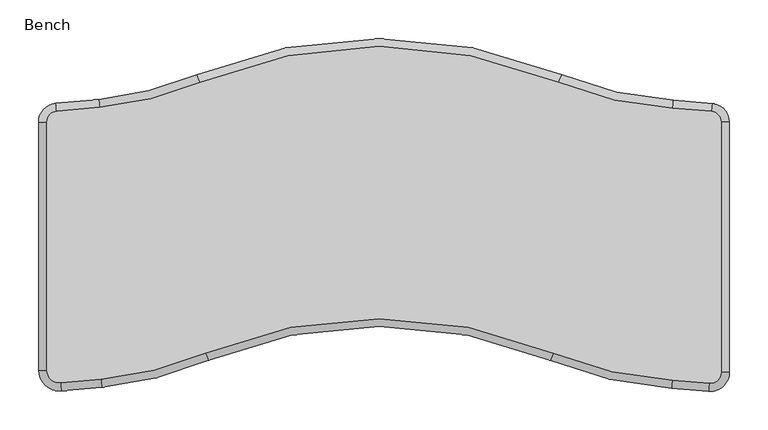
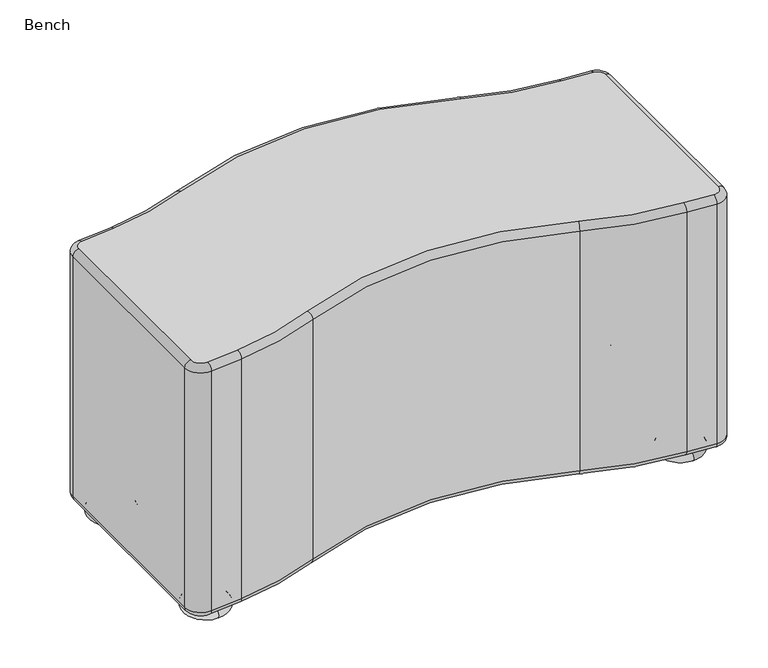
"""IFC4 building model written with IfcOpenShell, lengths in millimetres: furniture geometry, Steelcase Coalesse - Ripple - Seating - Little Ripple Flat Bench : Bench."""

from ifc_helpers import new_model, si_unit, point, frame, origin, place, context, project, spatial, polyline, circle_curve, ellipse_curve, trimmed, source, transform, mapped, element, save
from ifc_brep_helpers import plane_surface, cylinder_surface, revolved_surface, advanced_brep


def bench_6f9ae0b0(model_context):
    return source(origin(), model_context, "Body", "AdvancedBrep", [
        advanced_brep(
        [(932.4187478, -719.4772914, 0.0), (932.4187478, -656.2252244, 0.0), (932.4187478, -687.8512579, 0.0), (932.4187478, -719.4772914, 14.0062856), (932.4187478, -656.2252244, 14.0062856), (932.4187478, -699.2123377, 14.0062856), (932.4187478, -676.4901781, 14.0062856), (932.4187478, -699.2123377, 27.8326936), (932.4187478, -676.4901781, 27.8326936), (932.4187478, -687.8512579, 27.8326936)],
        [
            (0, 1, circle_curve(frame((932.4187478, -687.8512579, 0.0), z_axis=(0.0, 0.0, -1.0), x_axis=(0.0, 1.0, 0.0)), 31.6260335)),
            (1, 2),
            (2, 0),
            (1, 0, circle_curve(frame((932.4187478, -687.8512579, 0.0), z_axis=(0.0, 0.0, -1.0), x_axis=(0.0, 1.0, 0.0)), 31.6260335)),
            (3, 4, circle_curve(frame((932.4187478, -687.8512579, 14.0062856), z_axis=(0.0, 0.0, -1.0), x_axis=(0.0, 1.0, 0.0)), 31.6260335)),
            (4, 1, circle_curve(frame((932.4187478, -656.2252244, 7.0031428), z_axis=(-1.0, 0.0, 0.0), x_axis=(0.0, -1.0, 0.0)), 7.0031428)),
            (0, 3, circle_curve(frame((932.4187478, -719.4772914, 7.0031428), z_axis=(-1.0, 0.0, 0.0), x_axis=(0.0, 1.0, 0.0)), 7.0031428)),
            (4, 3, circle_curve(frame((932.4187478, -687.8512579, 14.0062856), z_axis=(0.0, 0.0, -1.0), x_axis=(0.0, 1.0, 0.0)), 31.6260335)),
            (5, 6, circle_curve(frame((932.4187478, -687.8512579, 14.0062856), z_axis=(0.0, 0.0, -1.0), x_axis=(0.0, 1.0, 0.0)), 11.3610798)),
            (6, 4),
            (3, 5),
            (6, 5, circle_curve(frame((932.4187478, -687.8512579, 14.0062856), z_axis=(0.0, 0.0, -1.0), x_axis=(0.0, 1.0, 0.0)), 11.3610798)),
            (7, 8, circle_curve(frame((932.4187478, -687.8512579, 27.8326936), z_axis=(0.0, 0.0, -1.0), x_axis=(0.0, 1.0, 0.0)), 11.3610798)),
            (8, 6),
            (5, 7),
            (8, 7, circle_curve(frame((932.4187478, -687.8512579, 27.8326936), z_axis=(0.0, 0.0, -1.0), x_axis=(0.0, 1.0, 0.0)), 11.3610798)),
            (9, 8),
            (7, 9),
        ],
        [
            plane_surface(frame((932.4187478, -687.8512579, 0.0), z_axis=(0.0, 0.0, -1.0), x_axis=(0.0, 1.0, 0.0))),
            revolved_surface(trimmed(ellipse_curve(frame((932.4187478, -656.2252244, 7.0031428), z_axis=(1.0, 0.0, 0.0), x_axis=(0.0, -1.0, 0.0)), 7.0031428, 7.0031428), [point((932.4187478, -656.2252244, 0.0))], [point((932.4187478, -656.2252244, 14.0062856))], True, "CARTESIAN"), (932.4187478, -687.8512579, 34.264853), (0.0, 0.0, 1.0)),
            plane_surface(frame((932.4187478, -687.8512579, 14.0062856), z_axis=(0.0, 0.0, 1.0), x_axis=(0.0, 1.0, 0.0))),
            cylinder_surface(frame((932.4187478, -687.8512579, 34.264853), z_axis=(0.0, 0.0, 1.0), x_axis=(0.0, 1.0, 0.0)), 11.3610798),
            plane_surface(frame((932.4187478, -687.8512579, 27.8326936), z_axis=(0.0, 0.0, 1.0), x_axis=(0.0, 1.0, 0.0))),
        ],
        [
            (0, [[1, 2, 3]]),
            (0, [[4, -3, -2]]),
            (1, [[5, 6, -1, 7]]),
            (1, [[8, -7, -4, -6]]),
            (2, [[9, 10, -5, 11]]),
            (2, [[12, -11, -8, -10]]),
            (3, [[13, 14, -9, 15]]),
            (3, [[16, -15, -12, -14]]),
            (4, [[17, -13, 18]]),
            (4, [[-18, -16, -17]]),
        ],
    ),
        advanced_brep(
        [(932.4187478, -990.1676002, 0.0), (932.4187478, -926.9155332, 0.0), (932.4187478, -958.5415667, 0.0), (932.4187478, -990.1676002, 14.0062856), (932.4187478, -926.9155332, 14.0062856), (932.4187478, -969.9026465, 14.0062856), (932.4187478, -947.1804869, 14.0062856), (932.4187478, -969.9026465, 27.8326936), (932.4187478, -947.1804869, 27.8326936), (932.4187478, -958.5415667, 27.8326936)],
        [
            (0, 1, circle_curve(frame((932.4187478, -958.5415667, 0.0), z_axis=(0.0, 0.0, -1.0), x_axis=(0.0, 1.0, 0.0)), 31.6260335)),
            (1, 2),
            (2, 0),
            (1, 0, circle_curve(frame((932.4187478, -958.5415667, 0.0), z_axis=(0.0, 0.0, -1.0), x_axis=(0.0, 1.0, 0.0)), 31.6260335)),
            (3, 4, circle_curve(frame((932.4187478, -958.5415667, 14.0062856), z_axis=(0.0, 0.0, -1.0), x_axis=(0.0, 1.0, 0.0)), 31.6260335)),
            (4, 1, circle_curve(frame((932.4187478, -926.9155332, 7.0031428), z_axis=(-1.0, 0.0, 0.0), x_axis=(0.0, -1.0, 0.0)), 7.0031428)),
            (0, 3, circle_curve(frame((932.4187478, -990.1676002, 7.0031428), z_axis=(-1.0, 0.0, 0.0), x_axis=(0.0, 1.0, 0.0)), 7.0031428)),
            (4, 3, circle_curve(frame((932.4187478, -958.5415667, 14.0062856), z_axis=(0.0, 0.0, -1.0), x_axis=(0.0, 1.0, 0.0)), 31.6260335)),
            (5, 6, circle_curve(frame((932.4187478, -958.5415667, 14.0062856), z_axis=(0.0, 0.0, -1.0), x_axis=(0.0, 1.0, 0.0)), 11.3610798)),
            (6, 4),
            (3, 5),
            (6, 5, circle_curve(frame((932.4187478, -958.5415667, 14.0062856), z_axis=(0.0, 0.0, -1.0), x_axis=(0.0, 1.0, 0.0)), 11.3610798)),
            (7, 8, circle_curve(frame((932.4187478, -958.5415667, 27.8326936), z_axis=(0.0, 0.0, -1.0), x_axis=(0.0, 1.0, 0.0)), 11.3610798)),
            (8, 6),
            (5, 7),
            (8, 7, circle_curve(frame((932.4187478, -958.5415667, 27.8326936), z_axis=(0.0, 0.0, -1.0), x_axis=(0.0, 1.0, 0.0)), 11.3610798)),
            (9, 8),
            (7, 9),
        ],
        [
            plane_surface(frame((932.4187478, -958.5415667, 0.0), z_axis=(0.0, 0.0, -1.0), x_axis=(0.0, 1.0, 0.0))),
            revolved_surface(trimmed(ellipse_curve(frame((932.4187478, -926.9155332, 7.0031428), z_axis=(1.0, 0.0, 0.0), x_axis=(0.0, -1.0, 0.0)), 7.0031428, 7.0031428), [point((932.4187478, -926.9155332, 0.0))], [point((932.4187478, -926.9155332, 14.0062856))], True, "CARTESIAN"), (932.4187478, -958.5415667, 34.264853), (0.0, 0.0, 1.0)),
            plane_surface(frame((932.4187478, -958.5415667, 14.0062856), z_axis=(0.0, 0.0, 1.0), x_axis=(0.0, 1.0, 0.0))),
            cylinder_surface(frame((932.4187478, -958.5415667, 34.264853), z_axis=(0.0, 0.0, 1.0), x_axis=(0.0, 1.0, 0.0)), 11.3610798),
            plane_surface(frame((932.4187478, -958.5415667, 27.8326936), z_axis=(0.0, 0.0, 1.0), x_axis=(0.0, 1.0, 0.0))),
        ],
        [
            (0, [[1, 2, 3]]),
            (0, [[4, -3, -2]]),
            (1, [[5, 6, -1, 7]]),
            (1, [[8, -7, -4, -6]]),
            (2, [[9, 10, -5, 11]]),
            (2, [[12, -11, -8, -10]]),
            (3, [[13, 14, -9, 15]]),
            (3, [[16, -15, -12, -14]]),
            (4, [[17, -13, 18]]),
            (4, [[-18, -16, -17]]),
        ],
    ),
        advanced_brep(
        [(120.4477301, -634.3361638, 27.8849861), (175.971839, -629.3705172, 27.8849861), (176.9508114, -639.3787566, 17.8289808), (121.2602083, -644.3592931, 17.8289808), (120.4477301, -634.3361638, 447.7062021), (175.971839, -629.3705172, 447.7062021), (121.2686106, -644.4629478, 457.8662021), (176.9609355, -639.4822573, 457.8662021), (108.1100099, -658.6185837, 17.8289808), (98.0540046, -658.6185837, 27.8849861), (98.0540046, -658.6185837, 447.7062021), (108.2140046, -658.6185837, 457.8662021), (108.1100099, -979.9351542, 17.8289808), (98.0540046, -979.9351542, 27.8849861), (98.0540046, -979.9351542, 447.7062021), (108.2140046, -979.9351542, 457.8662021), (126.4417979, -996.8225283, 17.8289808), (127.2652499, -1006.844762, 27.8849861), (127.2652499, -1006.844762, 447.7062021), (126.4332821, -996.7188828, 457.8662021), (178.7471627, -992.1158765, 17.8289808), (179.7261351, -1002.1241159, 27.8849861), (179.7261351, -1002.1241159, 447.7062021), (178.7370386, -992.0123757, 457.8662021), (313.8948067, -958.2562611, 17.8289808), (317.750173, -967.5438546, 27.8849861), (317.7501729, -967.5438546, 447.7062021), (313.8549362, -958.160213, 457.8662021), (764.0204577, -958.2562611, 17.8289808), (760.1650914, -967.5438546, 27.8849861), (760.1650914, -967.5438546, 447.7062021), (764.0603281, -958.160213, 457.8662021), (917.6544628, -993.2766822, 17.8289808), (917.1039499, -1003.3176074, 27.8849861), (917.1039499, -1003.3176074, 447.7062021), (917.6601559, -993.1728435, 457.8662021), (965.8258489, -997.2555949, 17.8289808), (964.7213985, -1007.2507653, 27.8849861), (964.7213985, -1007.2507653, 447.7062021), (965.8372706, -997.1522293, 457.8662021), (981.7031439, -983.0360797, 17.8289808), (991.7591492, -983.0360797, 27.8849861), (991.7591492, -983.0360797, 447.7062021), (981.5991492, -983.0360797, 457.8662021), (981.7031439, -658.8859947, 17.8289808), (991.7591492, -658.8859947, 27.8849861), (991.7591492, -658.8859947, 447.7062021), (981.5991492, -658.8859947, 457.8662021), (968.9864852, -644.6684989, 17.8289808), (970.1037068, -634.6747479, 27.8849861), (970.1037068, -634.6747479, 447.7062021), (968.9749314, -644.7718498, 457.8662021), (918.6646184, -640.479586, 17.8289808), (919.2151313, -630.4386609, 27.8849861), (919.2151313, -630.4386609, 447.7062021), (918.6589253, -640.5834248, 457.8662021), (771.0948066, -606.84148, 17.8289808), (774.9501729, -597.5538865, 27.8849861), (774.9501729, -597.5538865, 447.7062021), (771.0549362, -606.9375281, 457.8662021), (306.8204576, -606.84148, 17.8289808), (302.9650914, -597.5538865, 27.8849861), (302.9650914, -597.5538865, 447.7062021), (306.8603281, -606.9375281, 457.8662021)],
        [
            (0, 1, circle_curve(frame((-150.5054877, 2708.2754968, 27.8849861), z_axis=(0.0, 0.0, 1.0), x_axis=(0.09735201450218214, -0.9952500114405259, 0.0)), 3353.575459)),
            (1, 2, circle_curve(frame((176.9508114, -639.3787566, 27.8849861), z_axis=(-0.9952500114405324, -0.09735201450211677, 0.0), x_axis=(0.0, 0.0, 1.0)), 10.0560053)),
            (2, 3, circle_curve(frame((-150.5054877, 2708.2754968, 17.8289808), z_axis=(0.0, 0.0, -1.0), x_axis=(0.09735201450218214, -0.9952500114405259, 0.0)), 3363.6314643)),
            (3, 0, circle_curve(frame((121.2602083, -644.3592931, 27.8849861), z_axis=(0.9967307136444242, 0.08079532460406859, 0.0), x_axis=(0.0, 0.0, 1.0)), 10.0560053)),
            (0, 4),
            (4, 5, circle_curve(frame((-150.5054877, 2708.2754968, 447.7062021), z_axis=(0.0, 0.0, 1.0), x_axis=(0.09735201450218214, -0.9952500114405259, 0.0)), 3353.575459)),
            (5, 1),
            (4, 6, circle_curve(frame((121.2686106, -644.4629478, 447.7062021), z_axis=(0.9967307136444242, 0.0807953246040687, 0.0), x_axis=(0.0, 0.0, 1.0)), 10.16)),
            (6, 7, circle_curve(frame((-150.5054877, 2708.2754968, 457.8662021), z_axis=(0.0, 0.0, 1.0), x_axis=(0.09735201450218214, -0.9952500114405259, 0.0)), 3363.735459)),
            (7, 5, circle_curve(frame((176.9609355, -639.4822573, 447.7062021), z_axis=(-0.9952500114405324, -0.09735201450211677, 0.0), x_axis=(0.0, 0.0, 1.0)), 10.16)),
            (3, 8, circle_curve(frame((122.4160712, -658.6185837, 17.8289808), z_axis=(0.0, 0.0, 1.0), x_axis=(-0.0807953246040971, 0.9967307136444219, 0.0)), 14.3060612)),
            (8, 9, circle_curve(frame((108.1100099, -658.6185837, 27.8849861), z_axis=(0.0, 1.0, 0.0), x_axis=(0.0, 0.0, 1.0)), 10.0560053)),
            (9, 0, circle_curve(frame((122.4160712, -658.6185837, 27.8849861), z_axis=(0.0, 0.0, -1.0), x_axis=(-0.0807953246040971, 0.9967307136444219, 0.0)), 24.3620665)),
            (9, 10),
            (10, 4, circle_curve(frame((122.4160712, -658.6185837, 447.7062021), z_axis=(0.0, 0.0, -1.0), x_axis=(-0.0807953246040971, 0.9967307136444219, 0.0)), 24.3620665)),
            (10, 11, circle_curve(frame((108.2140046, -658.6185837, 447.7062021), z_axis=(0.0, 0.9999999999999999, 0.0), x_axis=(0.0, 0.0, 1.0)), 10.16)),
            (11, 6, circle_curve(frame((122.4160712, -658.6185837, 457.8662021), z_axis=(0.0, 0.0, -1.0), x_axis=(-0.0807953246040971, 0.9967307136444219, 0.0)), 14.2020665)),
            (8, 12),
            (12, 13, circle_curve(frame((108.1100099, -979.9351542, 27.8849861), z_axis=(0.0, 1.0, 0.0), x_axis=(0.0, 0.0, 1.0)), 10.0560053)),
            (13, 9),
            (13, 14),
            (14, 10),
            (14, 15, circle_curve(frame((108.2140046, -979.9351542, 447.7062021), z_axis=(0.0, 1.0, 0.0), x_axis=(0.0, 0.0, 1.0)), 10.16)),
            (15, 11),
            (12, 16, circle_curve(frame((125.0542887, -979.9351542, 17.8289808), z_axis=(0.0, 0.0, 1.0), x_axis=(-1.0, 0.0, 0.0)), 16.9442788)),
            (16, 17, circle_curve(frame((126.4417979, -996.8225283, 27.8849861), z_axis=(-0.9966416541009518, -0.08188658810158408, 0.0), x_axis=(0.0, 0.0, 1.0)), 10.0560053)),
            (17, 13, circle_curve(frame((125.0542887, -979.9351542, 27.8849861), z_axis=(0.0, 0.0, -1.0), x_axis=(-1.0, 0.0, 0.0)), 27.0002841)),
            (17, 18),
            (18, 14, circle_curve(frame((125.0542887, -979.9351542, 447.7062021), z_axis=(0.0, 0.0, -1.0), x_axis=(-1.0, 0.0, 0.0)), 27.0002841)),
            (18, 19, circle_curve(frame((126.4332821, -996.7188828, 447.7062021), z_axis=(-0.9966416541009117, -0.0818865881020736, 0.0), x_axis=(0.0, 0.0, 1.0)), 10.16)),
            (19, 15, circle_curve(frame((125.0542887, -979.9351542, 457.8662021), z_axis=(0.0, 0.0, -1.0), x_axis=(-1.0, 0.0, 0.0)), 16.8402841)),
            (16, 20, circle_curve(frame((-150.5054877, 2373.9028519, 17.8289808), z_axis=(0.0, 0.0, 1.0), x_axis=(0.081886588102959, -0.9966416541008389, 0.0)), 3382.0835868)),
            (20, 21, circle_curve(frame((178.7471627, -992.1158765, 27.8849861), z_axis=(-0.9952500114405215, -0.0973520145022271, 0.0), x_axis=(0.0, 0.0, 1.0)), 10.0560053)),
            (21, 17, circle_curve(frame((-150.5054877, 2373.9028519, 27.8849861), z_axis=(0.0, 0.0, -1.0), x_axis=(0.081886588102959, -0.9966416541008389, 0.0)), 3392.1395921)),
            (21, 22),
            (22, 18, circle_curve(frame((-150.5054877, 2373.9028519, 447.7062021), z_axis=(0.0, 0.0, -1.0), x_axis=(0.081886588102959, -0.9966416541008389, 0.0)), 3392.1395921)),
            (22, 23, circle_curve(frame((178.7370386, -992.0123757, 447.7062021), z_axis=(-0.9952500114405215, -0.09735201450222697, 0.0), x_axis=(0.0, 0.0, 1.0)), 10.16)),
            (23, 19, circle_curve(frame((-150.5054877, 2373.9028519, 457.8662021), z_axis=(0.0, 0.0, -1.0), x_axis=(0.081886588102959, -0.9966416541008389, 0.0)), 3381.9795921)),
            (20, 24, circle_curve(frame((132.7500519, -521.8777894, 17.8289808), z_axis=(0.0, 0.0, 1.0), x_axis=(0.09735201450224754, -0.9952500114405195, 0.0)), 472.4823729)),
            (24, 25, circle_curve(frame((313.8948067, -958.2562611, 27.8849861), z_axis=(-0.9235867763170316, -0.38338944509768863, 0.0), x_axis=(0.0, 0.0, 1.0)), 10.0560053)),
            (25, 21, circle_curve(frame((132.7500519, -521.8777894, 27.8849861), z_axis=(0.0, 0.0, -1.0), x_axis=(0.09735201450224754, -0.9952500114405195, 0.0)), 482.5383782)),
            (25, 26),
            (26, 22, circle_curve(frame((132.7500519, -521.8777894, 447.7062021), z_axis=(0.0, 0.0, -1.0), x_axis=(0.09735201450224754, -0.9952500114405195, 0.0)), 482.5383782)),
            (26, 27, circle_curve(frame((313.8549362, -958.160213, 447.7062021), z_axis=(-0.9235867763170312, -0.3833894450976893, 0.0), x_axis=(0.0, 0.0, 1.0)), 10.16)),
            (27, 23, circle_curve(frame((132.7500519, -521.8777894, 457.8662021), z_axis=(0.0, 0.0, -1.0), x_axis=(0.09735201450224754, -0.9952500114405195, 0.0)), 472.3783782)),
            (24, 28, circle_curve(frame((538.9576322, -1500.4335488, 17.8289808), z_axis=(0.0, 0.0, -1.0), x_axis=(-0.38338944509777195, 0.9235867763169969, 0.0)), 587.0344851)),
            (28, 29, circle_curve(frame((764.0204577, -958.2562611, 27.8849861), z_axis=(-0.923586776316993, 0.3833894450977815, 0.0), x_axis=(0.0, 0.0, 1.0)), 10.0560053)),
            (29, 25, circle_curve(frame((538.9576322, -1500.4335488, 27.8849861), z_axis=(0.0, 0.0, 1.0), x_axis=(-0.38338944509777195, 0.9235867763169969, 0.0)), 576.9784798)),
            (29, 30),
            (30, 26, circle_curve(frame((538.9576322, -1500.4335488, 447.7062021), z_axis=(0.0, 0.0, 1.0), x_axis=(-0.38338944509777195, 0.9235867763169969, 0.0)), 576.9784798)),
            (30, 31, circle_curve(frame((764.0603281, -958.160213, 447.7062021), z_axis=(-0.9235867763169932, 0.38338944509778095, 0.0), x_axis=(0.0, 0.0, 1.0)), 10.16)),
            (31, 27, circle_curve(frame((538.9576322, -1500.4335488, 457.8662021), z_axis=(0.0, 0.0, 1.0), x_axis=(-0.38338944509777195, 0.9235867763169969, 0.0)), 587.1384798)),
            (28, 32, circle_curve(frame((943.2463693, -526.5002905, 17.8289808), z_axis=(0.0, 0.0, 1.0), x_axis=(-0.3833894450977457, -0.9235867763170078, 0.0)), 467.4774279)),
            (32, 33, circle_curve(frame((917.6544628, -993.2766822, 27.8849861), z_axis=(-0.9985003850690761, 0.054744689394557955, 0.0), x_axis=(0.0, 0.0, 1.0)), 10.0560053)),
            (33, 29, circle_curve(frame((943.2463693, -526.5002905, 27.8849861), z_axis=(0.0, 0.0, -1.0), x_axis=(-0.3833894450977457, -0.9235867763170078, 0.0)), 477.5334332)),
            (33, 34),
            (34, 30, circle_curve(frame((943.2463693, -526.5002905, 447.7062021), z_axis=(0.0, 0.0, -1.0), x_axis=(-0.3833894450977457, -0.9235867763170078, 0.0)), 477.5334332)),
            (34, 35, circle_curve(frame((917.6601559, -993.1728435, 447.7062021), z_axis=(-0.9985003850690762, 0.0547446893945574, 0.0), x_axis=(0.0, 0.0, 1.0)), 10.16)),
            (35, 31, circle_curve(frame((943.2463693, -526.5002905, 457.8662021), z_axis=(0.0, 0.0, -1.0), x_axis=(-0.3833894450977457, -0.9235867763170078, 0.0)), 467.3734332)),
            (32, 36, circle_curve(frame((869.7808872, -1866.4533166, 17.8289808), z_axis=(0.0, 0.0, -1.0), x_axis=(0.05474468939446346, 0.9985003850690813, 0.0)), 874.4880297)),
            (36, 37, circle_curve(frame((965.8258489, -997.2555949, 27.8849861), z_axis=(-0.9939503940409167, 0.10982993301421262, 0.0), x_axis=(0.0, 0.0, 1.0)), 10.0560053)),
            (37, 33, circle_curve(frame((869.7808872, -1866.4533166, 27.8849861), z_axis=(0.0, 0.0, 1.0), x_axis=(0.05474468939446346, 0.9985003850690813, 0.0)), 864.4320244)),
            (37, 38),
            (38, 34, circle_curve(frame((869.7808872, -1866.4533166, 447.7062021), z_axis=(0.0, 0.0, 1.0), x_axis=(0.05474468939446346, 0.9985003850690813, 0.0)), 864.4320244)),
            (38, 39, circle_curve(frame((965.8372706, -997.1522293, 447.7062021), z_axis=(-0.9939503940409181, 0.1098299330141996, 0.0), x_axis=(0.0, 0.0, 1.0)), 10.16)),
            (39, 35, circle_curve(frame((869.7808872, -1866.4533166, 457.8662021), z_axis=(0.0, 0.0, 1.0), x_axis=(0.05474468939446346, 0.9985003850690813, 0.0)), 874.5920244)),
            (36, 40, circle_curve(frame((967.3970827, -983.0360797, 17.8289808), z_axis=(0.0, 0.0, 1.0), x_axis=(-0.10982993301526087, -0.9939503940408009, 0.0)), 14.3060612)),
            (40, 41, circle_curve(frame((981.7031439, -983.0360797, 27.8849861), z_axis=(0.0, -1.0, 0.0), x_axis=(0.0, 0.0, 1.0)), 10.0560053)),
            (41, 37, circle_curve(frame((967.3970827, -983.0360797, 27.8849861), z_axis=(0.0, 0.0, -1.0), x_axis=(-0.10982993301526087, -0.9939503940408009, 0.0)), 24.3620665)),
            (41, 42),
            (42, 38, circle_curve(frame((967.3970827, -983.0360797, 447.7062021), z_axis=(0.0, 0.0, -1.0), x_axis=(-0.10982993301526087, -0.9939503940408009, 0.0)), 24.3620665)),
            (42, 43, circle_curve(frame((981.5991492, -983.0360797, 447.7062021), z_axis=(0.0, -1.0, 0.0), x_axis=(0.0, 0.0, 1.0)), 10.16)),
            (43, 39, circle_curve(frame((967.3970827, -983.0360797, 457.8662021), z_axis=(0.0, 0.0, -1.0), x_axis=(-0.10982993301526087, -0.9939503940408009, 0.0)), 14.2020665)),
            (40, 44),
            (44, 45, circle_curve(frame((981.7031439, -658.8859947, 27.8849861), z_axis=(0.0, -1.0, 0.0), x_axis=(0.0, 0.0, 1.0)), 10.0560053)),
            (45, 41),
            (45, 46),
            (46, 42),
            (46, 47, circle_curve(frame((981.5991492, -658.8859947, 447.7062021), z_axis=(0.0, -1.0, 0.0), x_axis=(0.0, 0.0, 1.0)), 10.16)),
            (47, 43),
            (44, 48, circle_curve(frame((967.3970827, -658.8859947, 17.8289808), z_axis=(0.0, 0.0, 1.0), x_axis=(1.0, 0.0, 0.0)), 14.3060612)),
            (48, 49, circle_curve(frame((968.9864852, -644.6684989, 27.8849861), z_axis=(0.9938092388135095, -0.11109994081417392, 0.0), x_axis=(0.0, 0.0, 1.0)), 10.0560053)),
            (49, 45, circle_curve(frame((967.3970827, -658.8859947, 27.8849861), z_axis=(0.0, 0.0, -1.0), x_axis=(1.0, 0.0, 0.0)), 24.3620665)),
            (49, 50),
            (50, 46, circle_curve(frame((967.3970827, -658.8859947, 447.7062021), z_axis=(0.0, 0.0, -1.0), x_axis=(1.0, 0.0, 0.0)), 24.3620665)),
            (50, 51, circle_curve(frame((968.9749314, -644.7718498, 447.7062021), z_axis=(0.9938092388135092, -0.11109994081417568, 0.0), x_axis=(0.0, 0.0, 1.0)), 10.16)),
            (51, 47, circle_curve(frame((967.3970827, -658.8859947, 457.8662021), z_axis=(0.0, 0.0, -1.0), x_axis=(1.0, 0.0, 0.0)), 14.2020665)),
            (48, 52, circle_curve(frame((869.7808872, -1532.0806718, 17.8289808), z_axis=(0.0, 0.0, 1.0), x_axis=(0.11109994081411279, 0.9938092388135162, 0.0)), 892.9401521)),
            (52, 53, circle_curve(frame((918.6646184, -640.479586, 27.8849861), z_axis=(0.998500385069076, -0.05474468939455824, 0.0), x_axis=(0.0, 0.0, 1.0)), 10.0560053)),
            (53, 49, circle_curve(frame((869.7808872, -1532.0806718, 27.8849861), z_axis=(0.0, 0.0, -1.0), x_axis=(0.11109994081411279, 0.9938092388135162, 0.0)), 902.9961574)),
            (53, 54),
            (54, 50, circle_curve(frame((869.7808872, -1532.0806718, 447.7062021), z_axis=(0.0, 0.0, -1.0), x_axis=(0.11109994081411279, 0.9938092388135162, 0.0)), 902.9961574)),
            (54, 55, circle_curve(frame((918.6589253, -640.5834248, 447.7062021), z_axis=(0.9985003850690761, -0.054744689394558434, 0.0), x_axis=(0.0, 0.0, 1.0)), 10.16)),
            (55, 51, circle_curve(frame((869.7808872, -1532.0806718, 457.8662021), z_axis=(0.0, 0.0, -1.0), x_axis=(0.11109994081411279, 0.9938092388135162, 0.0)), 892.8361574)),
            (52, 56, circle_curve(frame((943.2463693, -192.1276457, 17.8289808), z_axis=(0.0, 0.0, -1.0), x_axis=(-0.05474468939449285, -0.9985003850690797, 0.0)), 449.0253054)),
            (56, 57, circle_curve(frame((771.0948066, -606.84148, 27.8849861), z_axis=(0.9235867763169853, -0.3833894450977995, 0.0), x_axis=(0.0, 0.0, 1.0)), 10.0560053)),
            (57, 53, circle_curve(frame((943.2463693, -192.1276457, 27.8849861), z_axis=(0.0, 0.0, 1.0), x_axis=(-0.05474468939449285, -0.9985003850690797, 0.0)), 438.9693001)),
            (57, 58),
            (58, 54, circle_curve(frame((943.2463693, -192.1276457, 447.7062021), z_axis=(0.0, 0.0, 1.0), x_axis=(-0.05474468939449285, -0.9985003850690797, 0.0)), 438.9693001)),
            (58, 59, circle_curve(frame((771.0549362, -606.9375281, 447.7062021), z_axis=(0.9235867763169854, -0.38338944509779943, 0.0), x_axis=(0.0, 0.0, 1.0)), 10.16)),
            (59, 55, circle_curve(frame((943.2463693, -192.1276457, 457.8662021), z_axis=(0.0, 0.0, 1.0), x_axis=(-0.05474468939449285, -0.9985003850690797, 0.0)), 449.1293001)),
            (56, 60, circle_curve(frame((538.9576321, -1166.060904, 17.8289808), z_axis=(0.0, 0.0, 1.0), x_axis=(0.38338944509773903, 0.9235867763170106, 0.0)), 605.4866076)),
            (60, 61, circle_curve(frame((306.8204576, -606.84148, 27.8849861), z_axis=(0.9235867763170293, 0.38338944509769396, 0.0), x_axis=(0.0, 0.0, 1.0)), 10.0560053)),
            (61, 57, circle_curve(frame((538.9576321, -1166.060904, 27.8849861), z_axis=(0.0, 0.0, -1.0), x_axis=(0.38338944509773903, 0.9235867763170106, 0.0)), 615.5426129)),
            (61, 62),
            (62, 58, circle_curve(frame((538.9576321, -1166.060904, 447.7062021), z_axis=(0.0, 0.0, -1.0), x_axis=(0.38338944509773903, 0.9235867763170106, 0.0)), 615.5426129)),
            (62, 63, circle_curve(frame((306.8603281, -606.9375281, 447.7062021), z_axis=(0.9235867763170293, 0.38338944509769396, 0.0), x_axis=(0.0, 0.0, 1.0)), 10.16)),
            (63, 59, circle_curve(frame((538.9576321, -1166.060904, 457.8662021), z_axis=(0.0, 0.0, -1.0), x_axis=(0.38338944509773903, 0.9235867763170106, 0.0)), 605.3826129)),
            (2, 60, circle_curve(frame((132.7500519, -187.5051446, 17.8289808), z_axis=(0.0, 0.0, 1.0), x_axis=(0.3833894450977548, -0.923586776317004, 0.0)), 454.0302505)),
            (1, 61, circle_curve(frame((132.7500519, -187.5051446, 27.8849861), z_axis=(0.0, 0.0, 1.0), x_axis=(0.3833894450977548, -0.923586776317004, 0.0)), 443.9742452)),
            (5, 62, circle_curve(frame((132.7500519, -187.5051446, 447.7062021), z_axis=(0.0, 0.0, 1.0), x_axis=(0.3833894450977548, -0.923586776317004, 0.0)), 443.9742452)),
            (7, 63, circle_curve(frame((132.7500519, -187.5051446, 457.8662021), z_axis=(0.0, 0.0, 1.0), x_axis=(0.3833894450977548, -0.923586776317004, 0.0)), 454.1342452)),
        ],
        [
            revolved_surface(trimmed(ellipse_curve(frame((176.9508114, -639.3787566, 27.8849861), z_axis=(0.9952500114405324, 0.09735201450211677, 0.0), x_axis=(0.0, 0.0, 1.0)), 10.0560053, 10.0560053), [point((176.9508114, -639.3787566, 17.8289808))], [point((175.971839, -629.3705172, 27.8849861))], True, "CARTESIAN"), (-150.5054877, 2708.2754968, 457.8662021), (0.0, 0.0, -1.0)),
            revolved_surface(polyline([(175.97183901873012, -629.3705171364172, 27.884986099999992), (175.97183901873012, -629.3705171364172, 447.7062021)]), (-150.5054877, 2708.2754968, 457.8662021), (0.0, 0.0, -1.0)),
            revolved_surface(trimmed(ellipse_curve(frame((176.9609355, -639.4822573, 447.7062021), z_axis=(0.9952500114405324, 0.09735201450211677, 0.0), x_axis=(0.0, 0.0, 1.0)), 10.16, 10.16), [point((175.971839, -629.3705172, 447.7062021))], [point((176.9609355, -639.4822573, 457.8662021))], True, "CARTESIAN"), (-150.5054877, 2708.2754968, 457.8662021), (0.0, 0.0, -1.0)),
            revolved_surface(trimmed(ellipse_curve(frame((121.2602083, -644.3592931, 27.8849861), z_axis=(0.9967307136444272, 0.08079532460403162, 0.0), x_axis=(0.0, 0.0, 1.0)), 10.0560053, 10.0560053), [point((121.2602083, -644.3592931, 17.8289808))], [point((120.4477301, -634.3361638, 27.8849861))], True, "CARTESIAN"), (122.4160712, -658.6185837, 457.8662021), (0.0, 0.0, 1.0)),
            cylinder_surface(frame((122.4160712, -658.6185837, 457.8662021), z_axis=(0.0, 0.0, 1.0), x_axis=(-0.0807953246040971, 0.9967307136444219, 0.0)), 24.3620665),
            revolved_surface(trimmed(ellipse_curve(frame((121.2686106, -644.4629478, 447.7062021), z_axis=(0.9967307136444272, 0.08079532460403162, 0.0), x_axis=(0.0, 0.0, 1.0)), 10.16, 10.16), [point((120.4477301, -634.3361638, 447.7062021))], [point((121.2686106, -644.4629478, 457.8662021))], True, "CARTESIAN"), (122.4160712, -658.6185837, 457.8662021), (0.0, 0.0, 1.0)),
            cylinder_surface(frame((108.1100099, -658.6185837, 27.8849861), z_axis=(0.0, 1.0, 0.0), x_axis=(0.0, 0.0, 1.0)), 10.0560053),
            plane_surface(frame((98.0540046, -658.6185837, 27.8849861), z_axis=(-1.0, 0.0, 0.0), x_axis=(0.0, -1.0, 0.0))),
            cylinder_surface(frame((108.2140046, -658.6185837, 447.7062021), z_axis=(0.0, 1.0, 0.0), x_axis=(0.0, 0.0, 1.0)), 10.16),
            revolved_surface(trimmed(ellipse_curve(frame((108.1100099, -979.9351542, 27.8849861), z_axis=(0.0, 1.0, 0.0), x_axis=(0.0, 0.0, 1.0)), 10.0560053, 10.0560053), [point((108.1100099, -979.9351542, 17.8289808))], [point((98.0540046, -979.9351542, 27.8849861))], True, "CARTESIAN"), (125.0542887, -979.9351542, 457.8662021), (0.0, 0.0, 1.0)),
            cylinder_surface(frame((125.0542887, -979.9351542, 457.8662021), z_axis=(0.0, 0.0, 1.0), x_axis=(-1.0, 0.0, 0.0)), 27.0002841),
            revolved_surface(trimmed(ellipse_curve(frame((108.2140046, -979.9351542, 447.7062021), z_axis=(0.0, 1.0, 0.0), x_axis=(0.0, 0.0, 1.0)), 10.16, 10.16), [point((98.0540046, -979.9351542, 447.7062021))], [point((108.2140046, -979.9351542, 457.8662021))], True, "CARTESIAN"), (125.0542887, -979.9351542, 457.8662021), (0.0, 0.0, 1.0)),
            revolved_surface(trimmed(ellipse_curve(frame((126.4417979, -996.8225283, 27.8849861), z_axis=(-0.9966416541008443, -0.08188658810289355, 0.0), x_axis=(0.0, 0.0, 1.0)), 10.0560053, 10.0560053), [point((126.4417979, -996.8225283, 17.8289808))], [point((127.2652499, -1006.844762, 27.8849861))], True, "CARTESIAN"), (-150.5054877, 2373.9028519, 457.8662021), (0.0, 0.0, 1.0)),
            cylinder_surface(frame((-150.5054877, 2373.9028519, 457.8662021), z_axis=(0.0, 0.0, 1.0), x_axis=(0.081886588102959, -0.9966416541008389, 0.0)), 3392.1395921),
            revolved_surface(trimmed(ellipse_curve(frame((126.4332821, -996.7188828, 447.7062021), z_axis=(-0.9966416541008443, -0.08188658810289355, 0.0), x_axis=(0.0, 0.0, 1.0)), 10.16, 10.16), [point((127.2652499, -1006.844762, 447.7062021))], [point((126.4332821, -996.7188828, 457.8662021))], True, "CARTESIAN"), (-150.5054877, 2373.9028519, 457.8662021), (0.0, 0.0, 1.0)),
            revolved_surface(trimmed(ellipse_curve(frame((178.7471627, -992.1158765, 27.8849861), z_axis=(-0.9952500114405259, -0.09735201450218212, 0.0), x_axis=(0.0, 0.0, 1.0)), 10.0560053, 10.0560053), [point((178.7471627, -992.1158765, 17.8289808))], [point((179.7261351, -1002.1241159, 27.8849861))], True, "CARTESIAN"), (132.7500519, -521.8777894, 457.8662021), (0.0, 0.0, 1.0)),
            cylinder_surface(frame((132.7500519, -521.8777894, 457.8662021), z_axis=(0.0, 0.0, 1.0), x_axis=(0.09735201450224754, -0.9952500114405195, 0.0)), 482.5383782),
            revolved_surface(trimmed(ellipse_curve(frame((178.7370386, -992.0123757, 447.7062021), z_axis=(-0.9952500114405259, -0.09735201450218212, 0.0), x_axis=(0.0, 0.0, 1.0)), 10.16, 10.16), [point((179.7261351, -1002.1241159, 447.7062021))], [point((178.7370386, -992.0123757, 457.8662021))], True, "CARTESIAN"), (132.7500519, -521.8777894, 457.8662021), (0.0, 0.0, 1.0)),
            revolved_surface(trimmed(ellipse_curve(frame((313.8948067, -958.2562611, 27.8849861), z_axis=(-0.9235867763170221, -0.3833894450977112, 0.0), x_axis=(0.0, 0.0, 1.0)), 10.0560053, 10.0560053), [point((313.8948067, -958.2562611, 17.8289808))], [point((317.750173, -967.5438546, 27.8849861))], True, "CARTESIAN"), (538.9576322, -1500.4335488, 457.8662021), (0.0, 0.0, -1.0)),
            revolved_surface(polyline([(317.75017299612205, -967.5438546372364, 27.884986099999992), (317.75017299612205, -967.5438546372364, 447.7062021)]), (538.9576322, -1500.4335488, 457.8662021), (0.0, 0.0, -1.0)),
            revolved_surface(trimmed(ellipse_curve(frame((313.8549362, -958.160213, 447.7062021), z_axis=(-0.9235867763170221, -0.3833894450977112, 0.0), x_axis=(0.0, 0.0, 1.0)), 10.16, 10.16), [point((317.7501729, -967.5438546, 447.7062021))], [point((313.8549362, -958.160213, 457.8662021))], True, "CARTESIAN"), (538.9576322, -1500.4335488, 457.8662021), (0.0, 0.0, -1.0)),
            revolved_surface(trimmed(ellipse_curve(frame((764.0204577, -958.2562611, 27.8849861), z_axis=(-0.9235867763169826, 0.3833894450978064, 0.0), x_axis=(0.0, 0.0, 1.0)), 10.0560053, 10.0560053), [point((764.0204577, -958.2562611, 17.8289808))], [point((760.1650914, -967.5438546, 27.8849861))], True, "CARTESIAN"), (943.2463693, -526.5002905, 457.8662021), (0.0, 0.0, 1.0)),
            cylinder_surface(frame((943.2463693, -526.5002905, 457.8662021), z_axis=(0.0, 0.0, 1.0), x_axis=(-0.3833894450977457, -0.9235867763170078, 0.0)), 477.5334332),
            revolved_surface(trimmed(ellipse_curve(frame((764.0603281, -958.160213, 447.7062021), z_axis=(-0.9235867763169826, 0.3833894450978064, 0.0), x_axis=(0.0, 0.0, 1.0)), 10.16, 10.16), [point((760.1650914, -967.5438546, 447.7062021))], [point((764.0603281, -958.160213, 457.8662021))], True, "CARTESIAN"), (943.2463693, -526.5002905, 457.8662021), (0.0, 0.0, 1.0)),
            revolved_surface(trimmed(ellipse_curve(frame((917.6544628, -993.2766822, 27.8849861), z_axis=(-0.9985003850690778, 0.05474468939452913, 0.0), x_axis=(0.0, 0.0, 1.0)), 10.0560053, 10.0560053), [point((917.6544628, -993.2766822, 17.8289808))], [point((917.1039499, -1003.3176074, 27.8849861))], True, "CARTESIAN"), (869.7808872, -1866.4533166, 457.8662021), (0.0, 0.0, -1.0)),
            revolved_surface(polyline([(917.1039498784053, -1003.3176073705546, 27.884986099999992), (917.1039498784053, -1003.3176073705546, 447.7062021)]), (869.7808872, -1866.4533166, 457.8662021), (0.0, 0.0, -1.0)),
            revolved_surface(trimmed(ellipse_curve(frame((917.6601559, -993.1728435, 447.7062021), z_axis=(-0.9985003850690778, 0.05474468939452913, 0.0), x_axis=(0.0, 0.0, 1.0)), 10.16, 10.16), [point((917.1039499, -1003.3176074, 447.7062021))], [point((917.6601559, -993.1728435, 457.8662021))], True, "CARTESIAN"), (869.7808872, -1866.4533166, 457.8662021), (0.0, 0.0, -1.0)),
            revolved_surface(trimmed(ellipse_curve(frame((965.8258489, -997.2555949, 27.8849861), z_axis=(-0.9939503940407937, 0.10982993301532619, 0.0), x_axis=(0.0, 0.0, 1.0)), 10.0560053, 10.0560053), [point((965.8258489, -997.2555949, 17.8289808))], [point((964.7213985, -1007.2507653, 27.8849861))], True, "CARTESIAN"), (967.3970827, -983.0360797, 457.8662021), (0.0, 0.0, 1.0)),
            cylinder_surface(frame((967.3970827, -983.0360797, 457.8662021), z_axis=(0.0, 0.0, 1.0), x_axis=(-0.10982993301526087, -0.9939503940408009, 0.0)), 24.3620665),
            revolved_surface(trimmed(ellipse_curve(frame((965.8372706, -997.1522293, 447.7062021), z_axis=(-0.9939503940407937, 0.10982993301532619, 0.0), x_axis=(0.0, 0.0, 1.0)), 10.16, 10.16), [point((964.7213985, -1007.2507653, 447.7062021))], [point((965.8372706, -997.1522293, 457.8662021))], True, "CARTESIAN"), (967.3970827, -983.0360797, 457.8662021), (0.0, 0.0, 1.0)),
            cylinder_surface(frame((981.7031439, -983.0360797, 27.8849861), z_axis=(0.0, -1.0, 0.0), x_axis=(0.0, 0.0, 1.0)), 10.0560053),
            plane_surface(frame((991.7591492, -983.0360797, 27.8849861), z_axis=(1.0, 0.0, 0.0), x_axis=(0.0, 1.0, 0.0))),
            cylinder_surface(frame((981.5991492, -983.0360797, 447.7062021), z_axis=(0.0, -1.0, 0.0), x_axis=(0.0, 0.0, 1.0)), 10.16),
            revolved_surface(trimmed(ellipse_curve(frame((981.7031439, -658.8859947, 27.8849861), z_axis=(0.0, -1.0, 0.0), x_axis=(0.0, 0.0, 1.0)), 10.0560053, 10.0560053), [point((981.7031439, -658.8859947, 17.8289808))], [point((991.7591492, -658.8859947, 27.8849861))], True, "CARTESIAN"), (967.3970827, -658.8859947, 457.8662021), (0.0, 0.0, 1.0)),
            cylinder_surface(frame((967.3970827, -658.8859947, 457.8662021), z_axis=(0.0, 0.0, 1.0), x_axis=(1.0, 0.0, 0.0)), 24.3620665),
            revolved_surface(trimmed(ellipse_curve(frame((981.5991492, -658.8859947, 447.7062021), z_axis=(0.0, -1.0, 0.0), x_axis=(0.0, 0.0, 1.0)), 10.16, 10.16), [point((991.7591492, -658.8859947, 447.7062021))], [point((981.5991492, -658.8859947, 457.8662021))], True, "CARTESIAN"), (967.3970827, -658.8859947, 457.8662021), (0.0, 0.0, 1.0)),
            revolved_surface(trimmed(ellipse_curve(frame((968.9864852, -644.6684989, 27.8849861), z_axis=(0.9938092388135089, -0.11109994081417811, 0.0), x_axis=(0.0, 0.0, 1.0)), 10.0560053, 10.0560053), [point((968.9864852, -644.6684989, 17.8289808))], [point((970.1037068, -634.6747479, 27.8849861))], True, "CARTESIAN"), (869.7808872, -1532.0806718, 457.8662021), (0.0, 0.0, 1.0)),
            cylinder_surface(frame((869.7808872, -1532.0806718, 457.8662021), z_axis=(0.0, 0.0, 1.0), x_axis=(0.11109994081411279, 0.9938092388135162, 0.0)), 902.9961574),
            revolved_surface(trimmed(ellipse_curve(frame((968.9749314, -644.7718498, 447.7062021), z_axis=(0.9938092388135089, -0.11109994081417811, 0.0), x_axis=(0.0, 0.0, 1.0)), 10.16, 10.16), [point((970.1037068, -634.6747479, 447.7062021))], [point((968.9749314, -644.7718498, 457.8662021))], True, "CARTESIAN"), (869.7808872, -1532.0806718, 457.8662021), (0.0, 0.0, 1.0)),
            revolved_surface(trimmed(ellipse_curve(frame((918.6646184, -640.479586, 27.8849861), z_axis=(0.9985003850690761, -0.05474468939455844, 0.0), x_axis=(0.0, 0.0, 1.0)), 10.0560053, 10.0560053), [point((918.6646184, -640.479586, 17.8289808))], [point((919.2151313, -630.4386609, 27.8849861))], True, "CARTESIAN"), (943.2463693, -192.1276457, 457.8662021), (0.0, 0.0, -1.0)),
            revolved_surface(polyline([(919.2151313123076, -630.4386608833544, 27.884986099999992), (919.2151313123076, -630.4386608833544, 447.7062021)]), (943.2463693, -192.1276457, 457.8662021), (0.0, 0.0, -1.0)),
            revolved_surface(trimmed(ellipse_curve(frame((918.6589253, -640.5834248, 447.7062021), z_axis=(0.9985003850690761, -0.05474468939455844, 0.0), x_axis=(0.0, 0.0, 1.0)), 10.16, 10.16), [point((919.2151313, -630.4386609, 447.7062021))], [point((918.6589253, -640.5834248, 457.8662021))], True, "CARTESIAN"), (943.2463693, -192.1276457, 457.8662021), (0.0, 0.0, -1.0)),
            revolved_surface(trimmed(ellipse_curve(frame((771.0948066, -606.84148, 27.8849861), z_axis=(0.9235867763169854, -0.38338944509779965, 0.0), x_axis=(0.0, 0.0, 1.0)), 10.0560053, 10.0560053), [point((771.0948066, -606.84148, 17.8289808))], [point((774.9501729, -597.5538865, 27.8849861))], True, "CARTESIAN"), (538.9576321, -1166.060904, 457.8662021), (0.0, 0.0, 1.0)),
            cylinder_surface(frame((538.9576321, -1166.060904, 457.8662021), z_axis=(0.0, 0.0, 1.0), x_axis=(0.38338944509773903, 0.9235867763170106, 0.0)), 615.5426129),
            revolved_surface(trimmed(ellipse_curve(frame((771.0549362, -606.9375281, 447.7062021), z_axis=(0.9235867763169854, -0.38338944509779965, 0.0), x_axis=(0.0, 0.0, 1.0)), 10.16, 10.16), [point((774.9501729, -597.5538865, 447.7062021))], [point((771.0549362, -606.9375281, 457.8662021))], True, "CARTESIAN"), (538.9576321, -1166.060904, 457.8662021), (0.0, 0.0, 1.0)),
            plane_surface(frame((132.7500519, -187.5051446, 17.8289808), z_axis=(0.0, 0.0, -1.0), x_axis=(0.3833894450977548, -0.923586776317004, 0.0))),
            revolved_surface(trimmed(ellipse_curve(frame((306.8204576, -606.84148, 27.8849861), z_axis=(0.9235867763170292, 0.3833894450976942, 0.0), x_axis=(0.0, 0.0, 1.0)), 10.0560053, 10.0560053), [point((306.8204576, -606.84148, 17.8289808))], [point((302.9650914, -597.5538865, 27.8849861))], True, "CARTESIAN"), (132.7500519, -187.5051446, 457.8662021), (0.0, 0.0, -1.0)),
            revolved_surface(polyline([(302.96509140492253, -597.5538864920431, 27.884986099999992), (302.96509140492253, -597.5538864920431, 447.7062021)]), (132.7500519, -187.5051446, 457.8662021), (0.0, 0.0, -1.0)),
            revolved_surface(trimmed(ellipse_curve(frame((306.8603281, -606.9375281, 447.7062021), z_axis=(0.9235867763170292, 0.3833894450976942, 0.0), x_axis=(0.0, 0.0, 1.0)), 10.16, 10.16), [point((302.9650914, -597.5538865, 447.7062021))], [point((306.8603281, -606.9375281, 457.8662021))], True, "CARTESIAN"), (132.7500519, -187.5051446, 457.8662021), (0.0, 0.0, -1.0)),
            plane_surface(frame((132.7500519, -187.5051446, 457.8662021), z_axis=(0.0, 0.0, 1.0), x_axis=(0.3833894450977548, -0.923586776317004, 0.0))),
        ],
        [
            (0, [[1, 2, 3, 4]]),
            (1, [[-1, 5, 6, 7]]),
            (2, [[-6, 8, 9, 10]]),
            (3, [[-4, 11, 12, 13]]),
            (4, [[-5, -13, 14, 15]]),
            (5, [[-8, -15, 16, 17]]),
            (6, [[-12, 18, 19, 20]]),
            (7, [[-14, -20, 21, 22]]),
            (8, [[-16, -22, 23, 24]]),
            (9, [[-19, 25, 26, 27]]),
            (10, [[-21, -27, 28, 29]]),
            (11, [[-23, -29, 30, 31]]),
            (12, [[-26, 32, 33, 34]]),
            (13, [[-28, -34, 35, 36]]),
            (14, [[-30, -36, 37, 38]]),
            (15, [[-33, 39, 40, 41]]),
            (16, [[-35, -41, 42, 43]]),
            (17, [[-37, -43, 44, 45]]),
            (18, [[-40, 46, 47, 48]]),
            (19, [[-42, -48, 49, 50]]),
            (20, [[-44, -50, 51, 52]]),
            (21, [[-47, 53, 54, 55]]),
            (22, [[-49, -55, 56, 57]]),
            (23, [[-51, -57, 58, 59]]),
            (24, [[-54, 60, 61, 62]]),
            (25, [[-56, -62, 63, 64]]),
            (26, [[-58, -64, 65, 66]]),
            (27, [[-61, 67, 68, 69]]),
            (28, [[-63, -69, 70, 71]]),
            (29, [[-65, -71, 72, 73]]),
            (30, [[-68, 74, 75, 76]]),
            (31, [[-70, -76, 77, 78]]),
            (32, [[-72, -78, 79, 80]]),
            (33, [[-75, 81, 82, 83]]),
            (34, [[-77, -83, 84, 85]]),
            (35, [[-79, -85, 86, 87]]),
            (36, [[-82, 88, 89, 90]]),
            (37, [[-84, -90, 91, 92]]),
            (38, [[-86, -92, 93, 94]]),
            (39, [[-89, 95, 96, 97]]),
            (40, [[-91, -97, 98, 99]]),
            (41, [[-93, -99, 100, 101]]),
            (42, [[-96, 102, 103, 104]]),
            (43, [[-98, -104, 105, 106]]),
            (44, [[-100, -106, 107, 108]]),
            (45, [[-3, 109, -102, -95, -88, -81, -74, -67, -60, -53, -46, -39, -32, -25, -18, -11]]),
            (46, [[-2, 110, -103, -109]]),
            (47, [[-7, 111, -105, -110]]),
            (48, [[-10, 112, -107, -111]]),
            (49, [[-9, -17, -24, -31, -38, -45, -52, -59, -66, -73, -80, -87, -94, -101, -108, -112]]),
        ],
    ),
        advanced_brep(
        [(145.4965165, -699.2123377, 27.8326936), (145.4965165, -676.4901781, 27.8326936), (145.4965165, -687.8512579, 27.8326936), (145.4965165, -699.2123377, 14.0062856), (145.4965165, -676.4901781, 14.0062856), (145.4965165, -719.4772914, 14.0062856), (145.4965165, -656.2252244, 14.0062856), (145.4965165, -719.4772914, 0.0), (145.4965165, -656.2252244, 0.0), (145.4965165, -687.8512579, 0.0)],
        [
            (0, 1, circle_curve(frame((145.4965165, -687.8512579, 27.8326936), z_axis=(0.0, 0.0, 1.0), x_axis=(0.0, 1.0, 0.0)), 11.3610798)),
            (1, 2),
            (2, 0),
            (1, 0, circle_curve(frame((145.4965165, -687.8512579, 27.8326936), z_axis=(0.0, 0.0, 1.0), x_axis=(0.0, 1.0, 0.0)), 11.3610798)),
            (3, 4, circle_curve(frame((145.4965165, -687.8512579, 14.0062856), z_axis=(0.0, 0.0, 1.0), x_axis=(0.0, 1.0, 0.0)), 11.3610798)),
            (4, 1),
            (0, 3),
            (4, 3, circle_curve(frame((145.4965165, -687.8512579, 14.0062856), z_axis=(0.0, 0.0, 1.0), x_axis=(0.0, 1.0, 0.0)), 11.3610798)),
            (5, 6, circle_curve(frame((145.4965165, -687.8512579, 14.0062856), z_axis=(0.0, 0.0, 1.0), x_axis=(0.0, 1.0, 0.0)), 31.6260335)),
            (6, 4),
            (3, 5),
            (6, 5, circle_curve(frame((145.4965165, -687.8512579, 14.0062856), z_axis=(0.0, 0.0, 1.0), x_axis=(0.0, 1.0, 0.0)), 31.6260335)),
            (7, 8, circle_curve(frame((145.4965165, -687.8512579, 0.0), z_axis=(0.0, 0.0, 1.0), x_axis=(0.0, 1.0, 0.0)), 31.6260335)),
            (8, 6, circle_curve(frame((145.4965165, -656.2252244, 7.0031428), z_axis=(1.0, 0.0, 0.0), x_axis=(0.0, -1.0, 0.0)), 7.0031428)),
            (5, 7, circle_curve(frame((145.4965165, -719.4772914, 7.0031428), z_axis=(1.0, 0.0, 0.0), x_axis=(0.0, 1.0, 0.0)), 7.0031428)),
            (8, 7, circle_curve(frame((145.4965165, -687.8512579, 0.0), z_axis=(0.0, 0.0, 1.0), x_axis=(0.0, 1.0, 0.0)), 31.6260335)),
            (9, 8),
            (7, 9),
        ],
        [
            plane_surface(frame((145.4965165, -687.8512579, 27.8326936), z_axis=(0.0, 0.0, 1.0), x_axis=(0.0, 1.0, 0.0))),
            cylinder_surface(frame((145.4965165, -687.8512579, 34.264853), z_axis=(0.0, 0.0, -1.0), x_axis=(0.0, 1.0, 0.0)), 11.3610798),
            plane_surface(frame((145.4965165, -687.8512579, 14.0062856), z_axis=(0.0, 0.0, 1.0), x_axis=(0.0, 1.0, 0.0))),
            revolved_surface(trimmed(ellipse_curve(frame((145.4965165, -656.2252244, 7.0031428), z_axis=(-1.0, 0.0, 0.0), x_axis=(0.0, -1.0, 0.0)), 7.0031428, 7.0031428), [point((145.4965165, -656.2252244, 14.0062856))], [point((145.4965165, -656.2252244, 0.0))], True, "CARTESIAN"), (145.4965165, -687.8512579, 34.264853), (0.0, 0.0, -1.0)),
            plane_surface(frame((145.4965165, -687.8512579, 0.0), z_axis=(0.0, 0.0, -1.0), x_axis=(0.0, 1.0, 0.0))),
        ],
        [
            (0, [[1, 2, 3]]),
            (0, [[4, -3, -2]]),
            (1, [[5, 6, -1, 7]]),
            (1, [[8, -7, -4, -6]]),
            (2, [[9, 10, -5, 11]]),
            (2, [[12, -11, -8, -10]]),
            (3, [[13, 14, -9, 15]]),
            (3, [[16, -15, -12, -14]]),
            (4, [[17, -13, 18]]),
            (4, [[-18, -16, -17]]),
        ],
    ),
        advanced_brep(
        [(145.4965165, -969.9026465, 27.8326936), (145.4965165, -947.1804869, 27.8326936), (145.4965165, -958.5415667, 27.8326936), (145.4965165, -969.9026465, 14.0062856), (145.4965165, -947.1804869, 14.0062856), (145.4965165, -990.1676002, 14.0062856), (145.4965165, -926.9155332, 14.0062856), (145.4965165, -990.1676002, 0.0), (145.4965165, -926.9155332, 0.0), (145.4965165, -958.5415667, 0.0)],
        [
            (0, 1, circle_curve(frame((145.4965165, -958.5415667, 27.8326936), z_axis=(0.0, 0.0, 1.0), x_axis=(0.0, 1.0, 0.0)), 11.3610798)),
            (1, 2),
            (2, 0),
            (1, 0, circle_curve(frame((145.4965165, -958.5415667, 27.8326936), z_axis=(0.0, 0.0, 1.0), x_axis=(0.0, 1.0, 0.0)), 11.3610798)),
            (3, 4, circle_curve(frame((145.4965165, -958.5415667, 14.0062856), z_axis=(0.0, 0.0, 1.0), x_axis=(0.0, 1.0, 0.0)), 11.3610798)),
            (4, 1),
            (0, 3),
            (4, 3, circle_curve(frame((145.4965165, -958.5415667, 14.0062856), z_axis=(0.0, 0.0, 1.0), x_axis=(0.0, 1.0, 0.0)), 11.3610798)),
            (5, 6, circle_curve(frame((145.4965165, -958.5415667, 14.0062856), z_axis=(0.0, 0.0, 1.0), x_axis=(0.0, 1.0, 0.0)), 31.6260335)),
            (6, 4),
            (3, 5),
            (6, 5, circle_curve(frame((145.4965165, -958.5415667, 14.0062856), z_axis=(0.0, 0.0, 1.0), x_axis=(0.0, 1.0, 0.0)), 31.6260335)),
            (7, 8, circle_curve(frame((145.4965165, -958.5415667, 0.0), z_axis=(0.0, 0.0, 1.0), x_axis=(0.0, 1.0, 0.0)), 31.6260335)),
            (8, 6, circle_curve(frame((145.4965165, -926.9155332, 7.0031428), z_axis=(1.0, 0.0, 0.0), x_axis=(0.0, -1.0, 0.0)), 7.0031428)),
            (5, 7, circle_curve(frame((145.4965165, -990.1676002, 7.0031428), z_axis=(1.0, 0.0, 0.0), x_axis=(0.0, 1.0, 0.0)), 7.0031428)),
            (8, 7, circle_curve(frame((145.4965165, -958.5415667, 0.0), z_axis=(0.0, 0.0, 1.0), x_axis=(0.0, 1.0, 0.0)), 31.6260335)),
            (9, 8),
            (7, 9),
        ],
        [
            plane_surface(frame((145.4965165, -958.5415667, 27.8326936), z_axis=(0.0, 0.0, 1.0), x_axis=(0.0, 1.0, 0.0))),
            cylinder_surface(frame((145.4965165, -958.5415667, 34.264853), z_axis=(0.0, 0.0, -1.0), x_axis=(0.0, 1.0, 0.0)), 11.3610798),
            plane_surface(frame((145.4965165, -958.5415667, 14.0062856), z_axis=(0.0, 0.0, 1.0), x_axis=(0.0, 1.0, 0.0))),
            revolved_surface(trimmed(ellipse_curve(frame((145.4965165, -926.9155332, 7.0031428), z_axis=(-1.0, 0.0, 0.0), x_axis=(0.0, -1.0, 0.0)), 7.0031428, 7.0031428), [point((145.4965165, -926.9155332, 14.0062856))], [point((145.4965165, -926.9155332, 0.0))], True, "CARTESIAN"), (145.4965165, -958.5415667, 34.264853), (0.0, 0.0, -1.0)),
            plane_surface(frame((145.4965165, -958.5415667, 0.0), z_axis=(0.0, 0.0, -1.0), x_axis=(0.0, 1.0, 0.0))),
        ],
        [
            (0, [[1, 2, 3]]),
            (0, [[4, -3, -2]]),
            (1, [[5, 6, -1, 7]]),
            (1, [[8, -7, -4, -6]]),
            (2, [[9, 10, -5, 11]]),
            (2, [[12, -11, -8, -10]]),
            (3, [[13, 14, -9, 15]]),
            (3, [[16, -15, -12, -14]]),
            (4, [[17, -13, 18]]),
            (4, [[-18, -16, -17]]),
        ],
    ),
    ])


if __name__ == "__main__":
    model = new_model("IFC4")
    model_context = context("Model", 3, world=origin())
    ifc_project = project(units=[si_unit("LENGTHUNIT", "METRE", prefix="MILLI")], contexts=[model_context])
    site = spatial("IfcSite", under=ifc_project)
    building = spatial("IfcBuilding", under=site)
    placement = place(None, origin())
    bench_shape = bench_6f9ae0b0(model_context)
    element("IfcFurniture", 1, ObjectType="Steelcase Coalesse - Ripple - Seating - Little Ripple Flat Bench : Bench", at=placement, inside=building, context=model_context, shape_type="MappedRepresentation", body=[
        mapped(bench_shape, transform((0.0, 0.0, 0.0), x_axis=(1.0, 0.0, 0.0), y_axis=(0.0, 1.0, 0.0), z_axis=(0.0, 0.0, 1.0))),
    ])
    save(model, "model.ifc")
